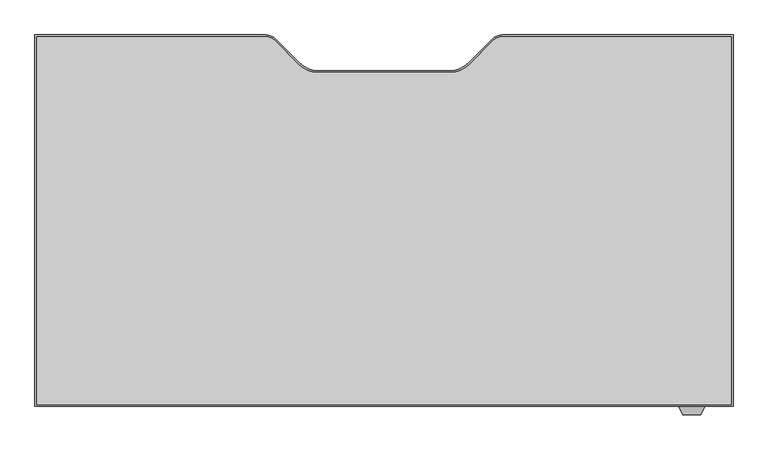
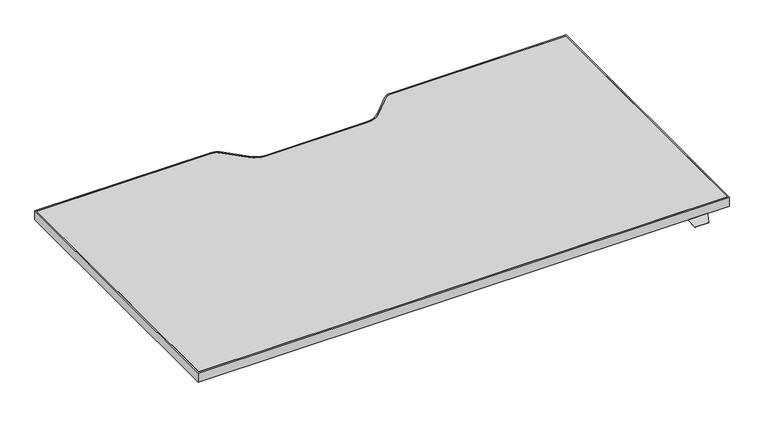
"""IFC4 building model written with IfcOpenShell, lengths in millimetres: furniture geometry, Steelcase Turnstone - Bivi - Height Adjustable Desk - C Base : 29D x 54.5W."""

from ifc_helpers import new_model, si_unit, point, frame, frame_2d, origin, place, context, project, spatial, polyline, circle_curve, trimmed, segment, composite_curve, outline, extrude, faceted_brep, source, transform, mapped, element, save


def furniture_2e0b67ed(model_context):
    return source(origin(), model_context, "Body", "SolidModel", [
        faceted_brep([(246.1677913, -465.8301693, 760.9984131), (246.1677913, -463.3074599, 760.9984131), (246.1677913, -463.3074599, 762.4), (246.1677913, -465.8490853, 762.4), (246.1677913, -467.1594921, 761.3004382), (246.1677913, -467.1594921, 759.8829789), (196.5948135, -465.8490853, 762.4), (196.5948135, -463.3074599, 762.4), (196.5948135, -463.3074599, 760.9984131), (196.5948135, -465.8301693, 760.9984131), (196.5948135, -467.1594921, 759.8829789), (196.5948135, -467.1594921, 761.3004382), (239.1858363, -482.1323429, 748.7367246), (203.5767685, -482.1323429, 748.7367246), (203.2173686, -481.3616074, 747.9659891), (239.5452362, -481.3616074, 747.9659891)], [[[0, 1, 2, 3, 4, 5]], [[6, 7, 8, 9, 10, 11]], [[12, 13, 14, 15]], [[9, 0, 5, 15, 14, 10]], [[1, 0, 9, 8]], [[2, 1, 8, 7]], [[3, 2, 7, 6]], [[3, 6, 11, 13, 12, 4]], [[5, 4, 12, 15]], [[11, 10, 14, 13]]]),
        extrude(outline(composite_curve([segment(polyline([(-1081.3785908, 270.7509147), (-623.9070191, 270.7509147)]), True, "CONTINUOUS"), segment(trimmed(circle_curve(frame_2d((-623.9070191, 242.0489147)), 28.702), [point((-623.9070191, 270.7509147))], [point((-603.6116402, 262.3442935))], False, "CARTESIAN"), True, "CONTINUOUS"), segment(polyline([(-603.6116402, 262.3442935), (-556.0972358, 214.8298891)]), True, "CONTINUOUS"), segment(trimmed(circle_curve(frame_2d((-520.1762113, 250.7509136)), 50.8), [point((-556.0972358, 214.8298891))], [point((-520.1762113, 199.9509136))], True, "CARTESIAN"), True, "CONTINUOUS"), segment(polyline([(-520.1762113, 199.9509136), (-258.2809703, 199.9509136)]), True, "CONTINUOUS"), segment(trimmed(circle_curve(frame_2d((-258.2809703, 250.7509136)), 50.8), [point((-258.2809703, 199.9509136))], [point((-222.3599458, 214.8298891))], True, "CARTESIAN"), True, "CONTINUOUS"), segment(polyline([(-222.3599458, 214.8298891), (-174.8455414, 262.3442935)]), True, "CONTINUOUS"), segment(trimmed(circle_curve(frame_2d((-154.5501625, 242.0489147)), 28.702), [point((-174.8455414, 262.3442935))], [point((-154.5501625, 270.7509147))], False, "CARTESIAN"), True, "CONTINUOUS"), segment(polyline([(-154.5501625, 270.7509147), (302.9214092, 270.7509147), (302.9214092, -465.8490853), (-1081.3785908, -465.8490853), (-1081.3785908, 270.7509147)]), True, "CONTINUOUS")], self_intersect=False), holes=[composite_curve([segment(polyline([(-1077.9987543, 267.4489147), (-1077.9987543, -462.5470853), (299.6194092, -462.5470853), (299.6194092, 267.4489147), (-154.5501625, 267.4489147)]), True, "CONTINUOUS"), segment(trimmed(circle_curve(frame_2d((-154.5501625, 242.0489147)), 25.4), [point((-154.5501625, 267.4489147))], [point((-172.5106748, 260.0094269))], True, "CARTESIAN"), True, "CONTINUOUS"), segment(polyline([(-172.5106748, 260.0094269), (-220.527602, 211.9924998)]), True, "CONTINUOUS"), segment(trimmed(circle_curve(frame_2d((-256.4486265, 247.9135242)), 50.8), [point((-220.527602, 211.9924998))], [point((-256.4486265, 197.1135242))], False, "CARTESIAN"), True, "CONTINUOUS"), segment(polyline([(-256.4486265, 197.1135242), (-389.2285908, 197.1135242), (-522.0085552, 197.1135242)]), True, "CONTINUOUS"), segment(trimmed(circle_curve(frame_2d((-522.0085552, 247.9135242)), 50.8), [point((-522.0085552, 197.1135242))], [point((-557.9295796, 211.9924998))], False, "CARTESIAN"), True, "CONTINUOUS"), segment(polyline([(-557.9295796, 211.9924998), (-605.9465068, 260.0094269)]), True, "CONTINUOUS"), segment(trimmed(circle_curve(frame_2d((-623.9070191, 242.0489147)), 25.4), [point((-605.9465068, 260.0094269))], [point((-623.9070191, 267.4489147))], True, "CARTESIAN"), True, "CONTINUOUS"), segment(polyline([(-623.9070191, 267.4489147), (-1077.9987543, 267.4489147)]), True, "CONTINUOUS")], self_intersect=False)]), frame((0.0, 0.0, 762.4), z_axis=(0.0, 0.0, 1.0), x_axis=(1.0, 0.0, 0.0)), (0.0, 0.0, 1.0), 25.0),
        extrude(outline(composite_curve([segment(polyline([(-1077.9987543, 267.4489147), (-623.9070191, 267.4489147)]), True, "CONTINUOUS"), segment(trimmed(circle_curve(frame_2d((-623.9070191, 242.0489147)), 25.4), [point((-623.9070191, 267.4489147))], [point((-605.9465068, 260.0094269))], False, "CARTESIAN"), True, "CONTINUOUS"), segment(polyline([(-605.9465068, 260.0094269), (-557.9295796, 211.9924998)]), True, "CONTINUOUS"), segment(trimmed(circle_curve(frame_2d((-522.0085552, 247.9135242)), 50.8), [point((-557.9295796, 211.9924998))], [point((-522.0085552, 197.1135242))], True, "CARTESIAN"), True, "CONTINUOUS"), segment(polyline([(-522.0085552, 197.1135242), (-389.2285908, 197.1135242), (-256.4486265, 197.1135242)]), True, "CONTINUOUS"), segment(trimmed(circle_curve(frame_2d((-256.4486265, 247.9135242)), 50.8), [point((-256.4486265, 197.1135242))], [point((-220.527602, 211.9924998))], True, "CARTESIAN"), True, "CONTINUOUS"), segment(polyline([(-220.527602, 211.9924998), (-172.5106748, 260.0094269)]), True, "CONTINUOUS"), segment(trimmed(circle_curve(frame_2d((-154.5501625, 242.0489147)), 25.4), [point((-172.5106748, 260.0094269))], [point((-154.5501625, 267.4489147))], False, "CARTESIAN"), True, "CONTINUOUS"), segment(polyline([(-154.5501625, 267.4489147), (299.6194092, 267.4489147), (299.6194092, -462.5470853), (-1077.9987543, -462.5470853), (-1077.9987543, 267.4489147)]), True, "CONTINUOUS")], self_intersect=False)), frame((0.0, 0.0, 762.4), z_axis=(0.0, 0.0, 1.0), x_axis=(1.0, 0.0, 0.0)), (0.0, 0.0, 1.0), 25.0),
    ])


if __name__ == "__main__":
    model = new_model("IFC4")
    model_context = context("Model", 3, world=origin())
    ifc_project = project(units=[si_unit("LENGTHUNIT", "METRE", prefix="MILLI")], contexts=[model_context])
    site = spatial("IfcSite", under=ifc_project)
    building = spatial("IfcBuilding", under=site)
    placement = place(None, origin())
    furniture_shape = furniture_2e0b67ed(model_context)
    element("IfcFurniture", 1, ObjectType="Steelcase Turnstone - Bivi - Height Adjustable Desk - C Base : 29D x 54.5W", at=placement, inside=building, context=model_context, shape_type="MappedRepresentation", body=[
        mapped(furniture_shape, transform((0.0, 0.0, 0.0), x_axis=(1.0, 0.0, 0.0), y_axis=(0.0, 1.0, 0.0), z_axis=(0.0, 0.0, 1.0))),
    ])
    save(model, "model.ifc")
